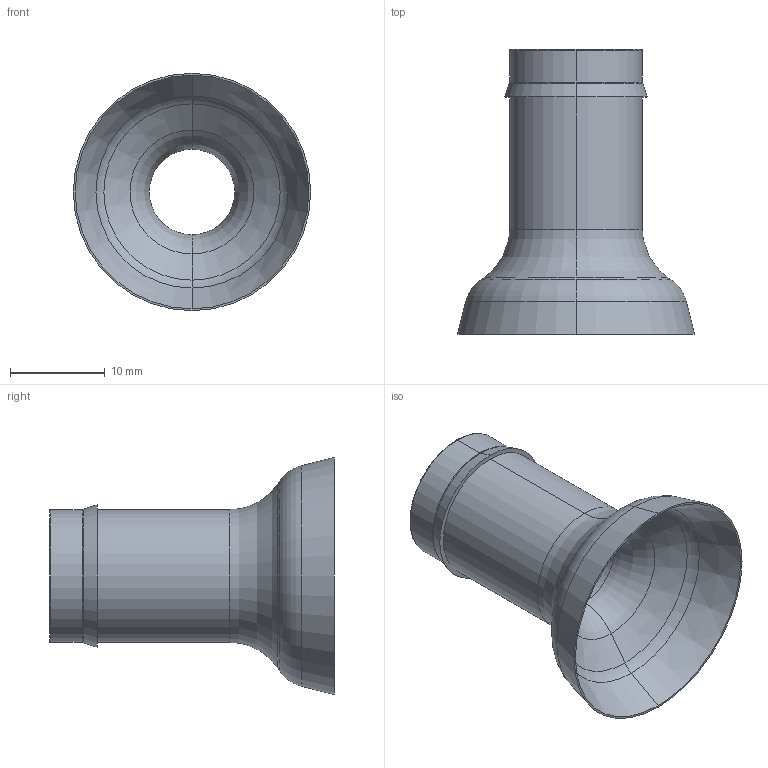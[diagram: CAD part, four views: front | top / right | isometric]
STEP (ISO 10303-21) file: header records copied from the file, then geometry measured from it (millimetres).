
FILE_DESCRIPTION (( 'STEP AP203' ), '1' );
FILE_NAME ('70P_25--A_(ind_A).STEP', '2016-09-19T07:19:48', ( '' ), ( '' ), 'SwSTEP 2.0', 'SolidWorks 2016', '' );
FILE_SCHEMA (( 'CONFIG_CONTROL_DESIGN' ));
Length unit declared in the file: millimetre
Products named in the file (1): 70P_25--A_(ind_A)
Bounding box: 25 x 30 x 25 mm (x, y, z)
Volume: 2630.9 mm3; surface area: 3013.9 mm2
Topology: 1 solids, 1 shells, 31 faces, 62 edges, 34 vertices
Faces by surface type: torus 12, cone 10, cylinder 6, plane 3
Entity records: 887 total; most frequent: DIRECTION 172, CARTESIAN_POINT 128, ORIENTED_EDGE 124, AXIS2_PLACEMENT_3D 78, EDGE_CURVE 62, CIRCLE 46, EDGE_LOOP 34, VERTEX_POINT 34
